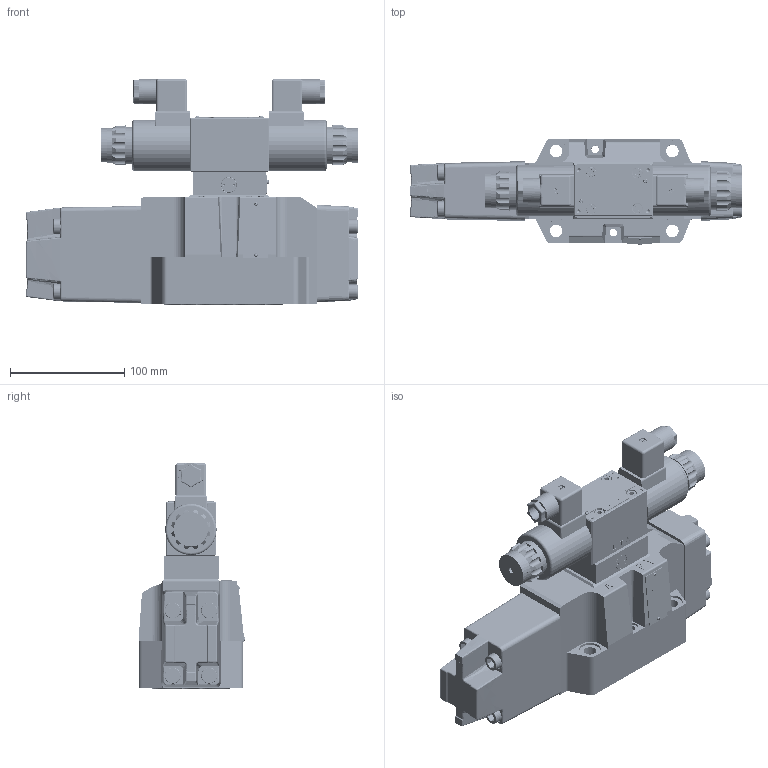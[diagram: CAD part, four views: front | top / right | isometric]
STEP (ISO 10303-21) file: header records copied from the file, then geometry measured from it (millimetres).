
FILE_DESCRIPTION(/* description */ (''),/* implementation_level */ '2;1');
FILE_NAME(/* name */ '4WRZ16-7XJ6EG24N9EK4.stp',/* time_stamp */ '2023-08-07T15:10:45+08:00',/* author */ (''),/* organization */ (''),/* preprocessor_version */ 'ST-DEVELOPER v16.7',/* originating_system */ 'SIEMENS PLM Software NX 12.0',/* authorisation */ '');
FILE_SCHEMA (('AUTOMOTIVE_DESIGN { 1 0 10303 214 3 1 1 1 }'));
Products named in the file (1): 4WRZ16-7XJ6EG24N9EK4
Bounding box: 290.6 x 93.3 x 197.62 mm (x, y, z)
Volume: 900357.9 mm3; surface area: 415047.7 mm2
Topology: 102 solids, 105 shells, 4688 faces, 12254 edges, 7894 vertices
Faces by surface type: cylinder 2161, plane 1681, cone 276, torus 249, bspline 213, extrusion 61, sphere 41, revolution 6
Full cylindrical faces by diameter (mm): 0.6 x3, 1 x4, 1.2 x1, 1.5 x3, 1.8 x6, 1.9 x2, 2 x4, 2.3 x2, 2.5 x4, 3 x9, 3.82 x1, 4 x8, 4.2 x48, 4.4 x8, 4.8 x2, 5 x109, 5.4 x2, 5.5 x6, 6 x18, 6.6 x3, 6.7 x89, 6.8 x3, 7 x2, 7.4 x5, 7.9 x2, 8 x79, 8.3 x2, 8.5 x6, 10 x4, 11 x7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
Entity records: 352417 total; most frequent: CARTESIAN_POINT 251654, ORIENTED_EDGE 20970, DIRECTION 17601, EDGE_CURVE 10485, VERTEX_POINT 7092, AXIS2_PLACEMENT_3D 6650, EDGE_LOOP 5260, ADVANCED_FACE 4374
